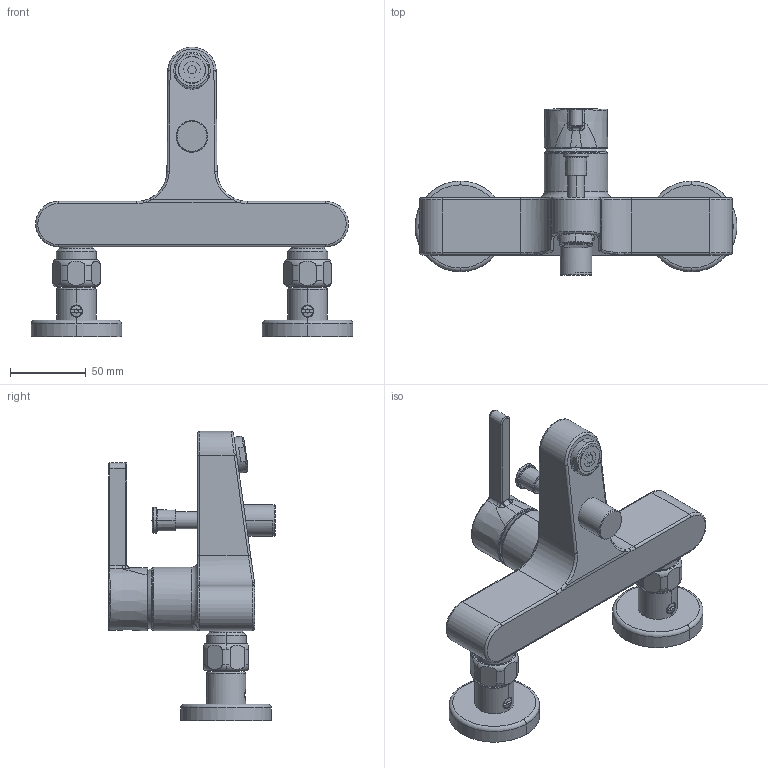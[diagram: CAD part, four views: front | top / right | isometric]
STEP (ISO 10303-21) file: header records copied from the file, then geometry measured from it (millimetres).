
FILE_DESCRIPTION((''),'2;1');
FILE_NAME('20_422_013_000','2019-09-23T17:31:22',('DB991'),(''),'CREO PARAMETRIC BY PTC INC, 2018500','CREO PARAMETRIC BY PTC INC, 2018500','');
FILE_SCHEMA(('CONFIG_CONTROL_DESIGN'));
Length unit declared in the file: millimetre
Products named in the file (1): 20_422_013_000
Bounding box: 213 x 110.3 x 191.6 mm (x, y, z)
Volume: 554490.9 mm3; surface area: 79640.6 mm2
Topology: 1 solids, 2 shells, 374 faces, 992 edges, 639 vertices
Faces by surface type: plane 134, cylinder 105, torus 79, bspline 24, cone 23, sphere 9
Entity records: 14168 total; most frequent: CARTESIAN_POINT 4813, DIRECTION 2022, ORIENTED_EDGE 1974, EDGE_CURVE 987, AXIS2_PLACEMENT_3D 847, VERTEX_POINT 639, CIRCLE 497, EDGE_LOOP 398
